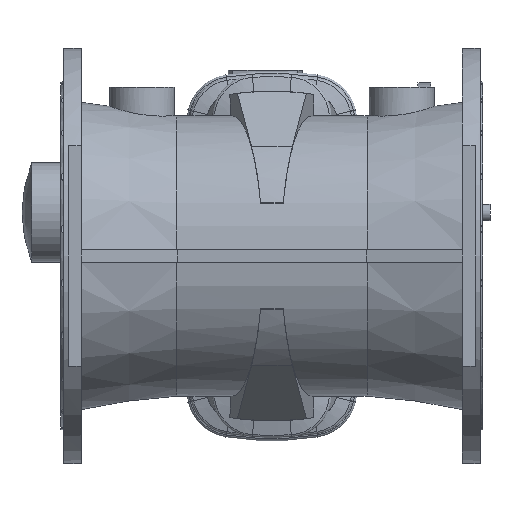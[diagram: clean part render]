
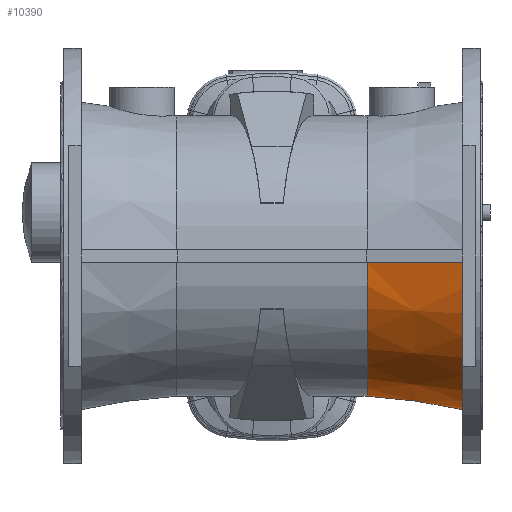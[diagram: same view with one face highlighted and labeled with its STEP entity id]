
A CAD part, front view. The second image highlights one B-rep face of the part: STEP entity #10390.
In plain terms, the highlighted conical face has half-angle 8 degrees and reference radius 216 mm.
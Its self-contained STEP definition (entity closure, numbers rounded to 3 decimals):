
#2298 = CIRCLE ( 'NONE', #4984, 236.652 ) ;
#3562 = CARTESIAN_POINT ( 'NONE',  ( 293.5, 236.549, -7. ) ) ;
#3601 = CARTESIAN_POINT ( 'NONE',  ( 293.5, -236.441, -10. ) ) ;
#3667 = CARTESIAN_POINT ( 'NONE',  ( 146.55, -215.768, -10. ) ) ;
#3672 = CARTESIAN_POINT ( 'NONE',  ( 146.55, 215.887, -7. ) ) ;
#4674 = CARTESIAN_POINT ( 'NONE',  ( 146.55, 215.887, -7. ) ) ;
#4675 = CARTESIAN_POINT ( 'NONE',  ( 152.609, 216.738, -7. ) ) ;
#4679 = CARTESIAN_POINT ( 'NONE',  ( 158.667, 217.59, -7. ) ) ;
#4680 = CARTESIAN_POINT ( 'NONE',  ( 164.726, 218.442, -7. ) ) ;
#4681 = CARTESIAN_POINT ( 'NONE',  ( 207.651, 224.478, -7. ) ) ;
#4682 = CARTESIAN_POINT ( 'NONE',  ( 250.575, 230.514, -7. ) ) ;
#4683 = CARTESIAN_POINT ( 'NONE',  ( 293.5, 236.549, -7. ) ) ;
#4751 = CARTESIAN_POINT ( 'NONE',  ( 293.5, 0., 0. ) ) ;
#4752 = DIRECTION ( 'NONE',  ( -1., 0., 0. ) ) ;
#4753 = DIRECTION ( 'NONE',  ( 0., 0., 1. ) ) ;
#4928 = CARTESIAN_POINT ( 'NONE',  ( 146.55, -215.768, -10. ) ) ;
#4929 = CARTESIAN_POINT ( 'NONE',  ( 195.533, -222.66, -10. ) ) ;
#4984 = AXIS2_PLACEMENT_3D ( 'NONE', #4751, #4752, #4753 ) ;
#5181 = CARTESIAN_POINT ( 'NONE',  ( 244.517, -229.551, -10. ) ) ;
#5182 = CARTESIAN_POINT ( 'NONE',  ( 293.5, -236.441, -10. ) ) ;
#6301 = EDGE_LOOP ( 'NONE', ( #13755, #13748, #13745, #13727 ) ) ;
#9553 = B_SPLINE_CURVE_WITH_KNOTS ( 'NONE', 3,
 ( #4674, #4675, #4679, #4680, #4681, #4682, #4683 ),
 .UNSPECIFIED., .F., .F.,
 ( 4, 3, 4 ),
 ( 0.374, 0.392, 0.522 ),
 .UNSPECIFIED. ) ;
#9668 = B_SPLINE_CURVE_WITH_KNOTS ( 'NONE', 3,
 ( #4928, #4929, #5181, #5182 ),
 .UNSPECIFIED., .F., .F.,
 ( 4, 4 ),
 ( 0.352, 0.501 ),
 .UNSPECIFIED. ) ;
#10139 = EDGE_CURVE ( 'NONE', #14563, #14558, #15719, .T. ) ;
#10390 = ADVANCED_FACE ( 'NONE', ( #15830 ), #15836, .T. ) ;
#13727 = ORIENTED_EDGE ( 'NONE', *, *, #19142, .F. ) ;
#13745 = ORIENTED_EDGE ( 'NONE', *, *, #19091, .T. ) ;
#13748 = ORIENTED_EDGE ( 'NONE', *, *, #19068, .T. ) ;
#13755 = ORIENTED_EDGE ( 'NONE', *, *, #10139, .F. ) ;
#14453 = VERTEX_POINT ( 'NONE', #3562 ) ;
#14492 = VERTEX_POINT ( 'NONE', #3601 ) ;
#14558 = VERTEX_POINT ( 'NONE', #3667 ) ;
#14563 = VERTEX_POINT ( 'NONE', #3672 ) ;
#15719 = CIRCLE ( 'NONE', #19983, 216. ) ;
#15830 = FACE_OUTER_BOUND ( 'NONE', #6301, .T. ) ;
#15836 = CONICAL_SURFACE ( 'NONE', #20037, 216., 0.14 ) ;
#16291 = CARTESIAN_POINT ( 'NONE',  ( 146.55, 0., 0. ) ) ;
#16292 = DIRECTION ( 'NONE',  ( -1., 0., 0. ) ) ;
#16293 = DIRECTION ( 'NONE',  ( 0., 0., 1. ) ) ;
#17221 = DIRECTION ( 'NONE',  ( 0., 0., -1. ) ) ;
#17228 = DIRECTION ( 'NONE',  ( 1., 0., 0. ) ) ;
#17229 = CARTESIAN_POINT ( 'NONE',  ( 146.55, 0., 0. ) ) ;
#19068 = EDGE_CURVE ( 'NONE', #14563, #14453, #9553, .T. ) ;
#19091 = EDGE_CURVE ( 'NONE', #14453, #14492, #2298, .T. ) ;
#19142 = EDGE_CURVE ( 'NONE', #14558, #14492, #9668, .T. ) ;
#19983 = AXIS2_PLACEMENT_3D ( 'NONE', #16291, #16292, #16293 ) ;
#20037 = AXIS2_PLACEMENT_3D ( 'NONE', #17229, #17228, #17221 ) ;
